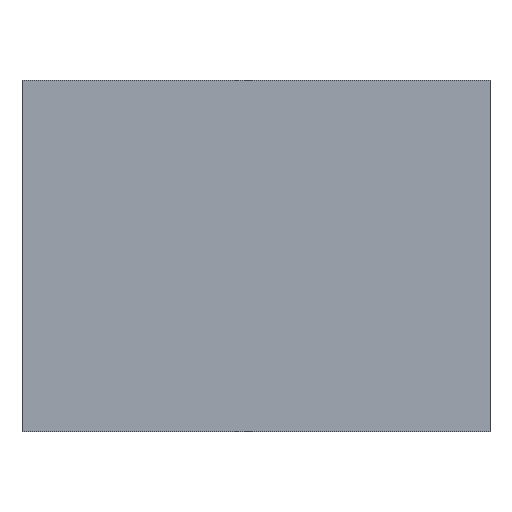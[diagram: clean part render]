
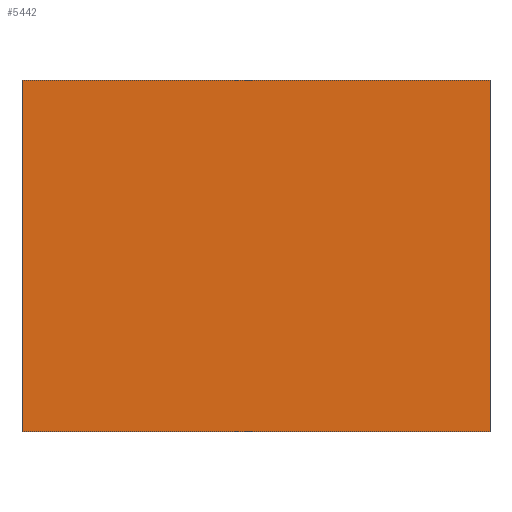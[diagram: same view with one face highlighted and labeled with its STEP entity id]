
A CAD part, front view. The second image highlights one B-rep face of the part: STEP entity #5442.
In plain terms, the highlighted planar face has unit normal (0, -1, 0).
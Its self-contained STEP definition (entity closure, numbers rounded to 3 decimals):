
#491 = VECTOR ( 'NONE', #6799, 1000. ) ;
#516 = LINE ( 'NONE', #5782, #491 ) ;
#802 = DIRECTION ( 'NONE',  ( 0., 0., -1. ) ) ;
#1023 = ORIENTED_EDGE ( 'NONE', *, *, #2893, .T. ) ;
#1066 = CARTESIAN_POINT ( 'NONE',  ( 0., -46.65, 22.5 ) ) ;
#1309 = VECTOR ( 'NONE', #6433, 1000. ) ;
#1703 = AXIS2_PLACEMENT_3D ( 'NONE', #2605, #2604, #2588 ) ;
#1812 = FACE_OUTER_BOUND ( 'NONE', #4270, .T. ) ;
#1813 = EDGE_CURVE ( 'NONE', #3879, #3577, #6333, .T. ) ;
#1850 = EDGE_CURVE ( 'NONE', #3577, #3712, #6084, .T. ) ;
#1897 = EDGE_CURVE ( 'NONE', #3879, #2324, #516, .T. ) ;
#1935 = ORIENTED_EDGE ( 'NONE', *, *, #1897, .T. ) ;
#2324 = VERTEX_POINT ( 'NONE', #6867 ) ;
#2378 = ORIENTED_EDGE ( 'NONE', *, *, #1850, .F. ) ;
#2588 = DIRECTION ( 'NONE',  ( 0., 0., 1. ) ) ;
#2604 = DIRECTION ( 'NONE',  ( 0., 1., 0. ) ) ;
#2605 = CARTESIAN_POINT ( 'NONE',  ( 60., -46.65, 22.5 ) ) ;
#2653 = PLANE ( 'NONE',  #1703 ) ;
#2893 = EDGE_CURVE ( 'NONE', #2324, #3712, #3891, .T. ) ;
#3551 = CARTESIAN_POINT ( 'NONE',  ( 60., -46.65, 22.5 ) ) ;
#3577 = VERTEX_POINT ( 'NONE', #4576 ) ;
#3712 = VERTEX_POINT ( 'NONE', #4023 ) ;
#3879 = VERTEX_POINT ( 'NONE', #3551 ) ;
#3891 = LINE ( 'NONE', #1066, #5270 ) ;
#4023 = CARTESIAN_POINT ( 'NONE',  ( 0., -46.65, -22.5 ) ) ;
#4201 = ORIENTED_EDGE ( 'NONE', *, *, #1813, .F. ) ;
#4270 = EDGE_LOOP ( 'NONE', ( #1023, #2378, #4201, #1935 ) ) ;
#4576 = CARTESIAN_POINT ( 'NONE',  ( 60., -46.65, -22.5 ) ) ;
#5270 = VECTOR ( 'NONE', #802, 1000. ) ;
#5442 = ADVANCED_FACE ( 'NONE', ( #1812 ), #2653, .F. ) ;
#5782 = CARTESIAN_POINT ( 'NONE',  ( 60., -46.65, 22.5 ) ) ;
#6012 = VECTOR ( 'NONE', #7105, 1000. ) ;
#6084 = LINE ( 'NONE', #7089, #6012 ) ;
#6333 = LINE ( 'NONE', #6389, #1309 ) ;
#6389 = CARTESIAN_POINT ( 'NONE',  ( 60., -46.65, 22.5 ) ) ;
#6433 = DIRECTION ( 'NONE',  ( 0., 0., -1. ) ) ;
#6799 = DIRECTION ( 'NONE',  ( -1., 0., 0. ) ) ;
#6867 = CARTESIAN_POINT ( 'NONE',  ( 0., -46.65, 22.5 ) ) ;
#7089 = CARTESIAN_POINT ( 'NONE',  ( 60., -46.65, -22.5 ) ) ;
#7105 = DIRECTION ( 'NONE',  ( -1., 0., 0. ) ) ;
